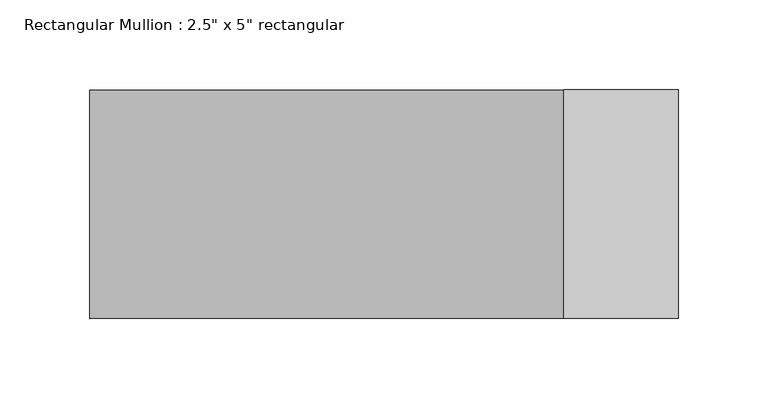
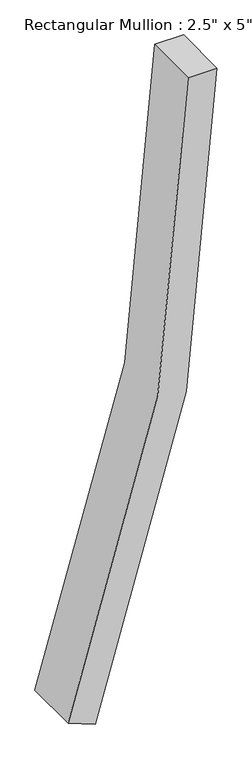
"""IFC4 building model written with IfcOpenShell, lengths in millimetres: member geometry."""

from ifc_helpers import new_model, si_unit, point, frame, frame_2d, origin, place, context, project, spatial, polyline, circle_curve, trimmed, segment, composite_curve, outline, extrude, source, transform, mapped, element, save


def member_828826df(model_context):
    return source(origin(), model_context, "Body", "SweptSolid", [
        extrude(outline(composite_curve([segment(trimmed(circle_curve(frame_2d((0.0, -3962.4)), 3962.4), [point((-1432.4625203, -267.9900487))], [point((0.0, 0.0))], False, "CARTESIAN"), True, "CONTINUOUS"), segment(polyline([(0.0, 0.0), (0.0, -63.5)]), True, "CONTINUOUS"), segment(trimmed(circle_curve(frame_2d((0.0, -3962.4)), 3898.9), [point((0.0, -63.5))], [point((-1409.5063902, -327.1953364))], True, "CARTESIAN"), True, "CONTINUOUS"), segment(polyline([(-1409.5063902, -327.1953364), (-1432.4625203, -267.9900487)]), True, "CONTINUOUS")], self_intersect=False)), frame((0.0, -63.5, 0.0), z_axis=(0.0, 1.0, 0.0), x_axis=(0.0, 0.0, 1.0)), (0.0, 0.0, 1.0), 127.0),
    ])


if __name__ == "__main__":
    model = new_model("IFC4")
    model_context = context("Model", 3, world=origin())
    ifc_project = project(units=[si_unit("LENGTHUNIT", "METRE", prefix="MILLI")], contexts=[model_context])
    site = spatial("IfcSite", under=ifc_project)
    building = spatial("IfcBuilding", under=site)
    placement = place(None, origin())
    member_shape = member_828826df(model_context)
    element("IfcMember", 1, ObjectType="Rectangular Mullion : 2.5\" x 5\" rectangular", at=placement, inside=building, context=model_context, shape_type="MappedRepresentation", body=[
        mapped(member_shape, transform((0.0, 0.0, 0.0), x_axis=(1.0, 0.0, 0.0), y_axis=(0.0, 1.0, 0.0), z_axis=(0.0, 0.0, 1.0))),
    ])
    save(model, "model.ifc")
